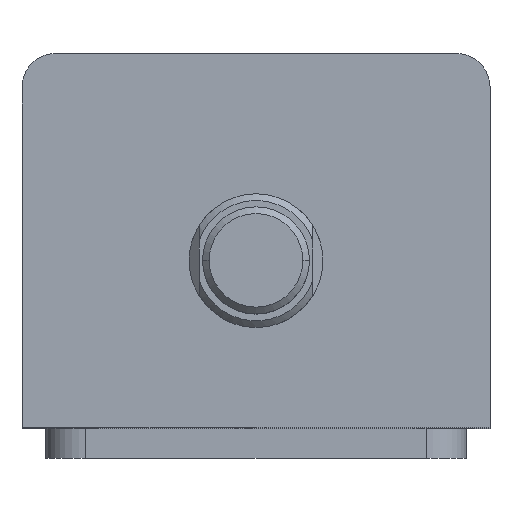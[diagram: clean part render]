
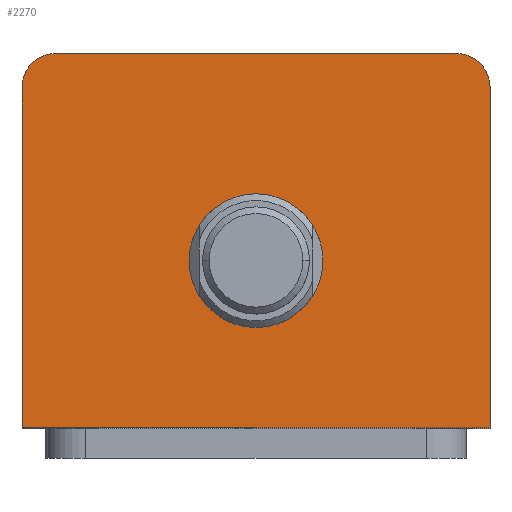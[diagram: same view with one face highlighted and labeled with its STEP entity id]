
A CAD part, top view. The second image highlights one B-rep face of the part: STEP entity #2270.
In plain terms, the highlighted planar face has unit normal (0, 0, 1).
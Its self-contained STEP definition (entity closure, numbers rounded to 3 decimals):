
#109 = EDGE_CURVE ( 'NONE', #2963, #3021, #3095, .T. ) ;
#111 = EDGE_CURVE ( 'NONE', #3020, #3009, #3098, .T. ) ;
#162 = EDGE_CURVE ( 'NONE', #2955, #3065, #2594, .T. ) ;
#172 = EDGE_CURVE ( 'NONE', #3009, #2955, #2615, .T. ) ;
#182 = EDGE_CURVE ( 'NONE', #3065, #2946, #2627, .T. ) ;
#184 = EDGE_CURVE ( 'NONE', #2946, #2968, #2626, .T. ) ;
#201 = EDGE_CURVE ( 'NONE', #3021, #2963, #2663, .T. ) ;
#238 = EDGE_CURVE ( 'NONE', #2968, #3020, #2726, .T. ) ;
#347 = CARTESIAN_POINT ( 'NONE',  ( -30., 28., 74. ) ) ;
#397 = CARTESIAN_POINT ( 'NONE',  ( 10., -3., 74. ) ) ;
#398 = CARTESIAN_POINT ( 'NONE',  ( 35., -28., 74. ) ) ;
#412 = CARTESIAN_POINT ( 'NONE',  ( 35., 23., 74. ) ) ;
#459 = CARTESIAN_POINT ( 'NONE',  ( -35., -28., 74. ) ) ;
#464 = CARTESIAN_POINT ( 'NONE',  ( -10., -3., 74. ) ) ;
#474 = CARTESIAN_POINT ( 'NONE',  ( 30., 28., 74. ) ) ;
#483 = CARTESIAN_POINT ( 'NONE',  ( -35., 23., 74. ) ) ;
#864 = ORIENTED_EDGE ( 'NONE', *, *, #238, .T. ) ;
#865 = ORIENTED_EDGE ( 'NONE', *, *, #184, .T. ) ;
#866 = ORIENTED_EDGE ( 'NONE', *, *, #182, .T. ) ;
#867 = ORIENTED_EDGE ( 'NONE', *, *, #162, .T. ) ;
#868 = ORIENTED_EDGE ( 'NONE', *, *, #172, .T. ) ;
#869 = ORIENTED_EDGE ( 'NONE', *, *, #111, .T. ) ;
#870 = ORIENTED_EDGE ( 'NONE', *, *, #109, .F. ) ;
#871 = ORIENTED_EDGE ( 'NONE', *, *, #201, .F. ) ;
#989 = EDGE_LOOP ( 'NONE', ( #871, #870 ) ) ;
#1108 = DIRECTION ( 'NONE',  ( 0., 1., 0. ) ) ;
#1109 = DIRECTION ( 'NONE',  ( 1., 0., 0. ) ) ;
#1111 = DIRECTION ( 'NONE',  ( 0., 0., 1. ) ) ;
#1113 = CARTESIAN_POINT ( 'NONE',  ( 0., -3., 74. ) ) ;
#1115 = CARTESIAN_POINT ( 'NONE',  ( 35., 28., 74. ) ) ;
#1157 = EDGE_LOOP ( 'NONE', ( #869, #868, #867, #866, #865, #864 ) ) ;
#1343 = DIRECTION ( 'NONE',  ( 1., 0., 0. ) ) ;
#1344 = DIRECTION ( 'NONE',  ( 0., 0., 1. ) ) ;
#1346 = PLANE ( 'NONE',  #1721 ) ;
#1349 = CARTESIAN_POINT ( 'NONE',  ( 0., 0., 74. ) ) ;
#1636 = DIRECTION ( 'NONE',  ( 1., 0., 0. ) ) ;
#1642 = CARTESIAN_POINT ( 'NONE',  ( -35., -28., 74. ) ) ;
#1721 = AXIS2_PLACEMENT_3D ( 'NONE', #1349, #1344, #1343 ) ;
#1861 = FACE_OUTER_BOUND ( 'NONE', #1157, .T. ) ;
#2154 = AXIS2_PLACEMENT_3D ( 'NONE', #2437, #2495, #2427 ) ;
#2158 = AXIS2_PLACEMENT_3D ( 'NONE', #2451, #2452, #2369 ) ;
#2165 = AXIS2_PLACEMENT_3D ( 'NONE', #2394, #2396, #2397 ) ;
#2206 = AXIS2_PLACEMENT_3D ( 'NONE', #1113, #1111, #1109 ) ;
#2270 = ADVANCED_FACE ( 'NONE', ( #2876, #1861 ), #1346, .T. ) ;
#2367 = CARTESIAN_POINT ( 'NONE',  ( -35., 28., 74. ) ) ;
#2369 = DIRECTION ( 'NONE',  ( 1., 0., 0. ) ) ;
#2394 = CARTESIAN_POINT ( 'NONE',  ( 30., 23., 74. ) ) ;
#2396 = DIRECTION ( 'NONE',  ( 0., 0., 1. ) ) ;
#2397 = DIRECTION ( 'NONE',  ( 1., 0., 0. ) ) ;
#2427 = DIRECTION ( 'NONE',  ( 1., 0., 0. ) ) ;
#2437 = CARTESIAN_POINT ( 'NONE',  ( 0., -3., 74. ) ) ;
#2449 = DIRECTION ( 'NONE',  ( 0., -1., 0. ) ) ;
#2451 = CARTESIAN_POINT ( 'NONE',  ( -30., 23., 74. ) ) ;
#2452 = DIRECTION ( 'NONE',  ( 0., 0., 1. ) ) ;
#2479 = CARTESIAN_POINT ( 'NONE',  ( -35., 28., 74. ) ) ;
#2495 = DIRECTION ( 'NONE',  ( 0., 0., 1. ) ) ;
#2527 = DIRECTION ( 'NONE',  ( -1., 0., 0. ) ) ;
#2594 = LINE ( 'NONE', #2479, #2600 ) ;
#2600 = VECTOR ( 'NONE', #2527, 1000. ) ;
#2615 = CIRCLE ( 'NONE', #2165, 5. ) ;
#2626 = LINE ( 'NONE', #2367, #2632 ) ;
#2627 = CIRCLE ( 'NONE', #2158, 5. ) ;
#2632 = VECTOR ( 'NONE', #2449, 1000. ) ;
#2663 = CIRCLE ( 'NONE', #2154, 10. ) ;
#2726 = LINE ( 'NONE', #1642, #2729 ) ;
#2729 = VECTOR ( 'NONE', #1636, 1000. ) ;
#2876 = FACE_BOUND ( 'NONE', #989, .T. ) ;
#2946 = VERTEX_POINT ( 'NONE', #483 ) ;
#2955 = VERTEX_POINT ( 'NONE', #474 ) ;
#2963 = VERTEX_POINT ( 'NONE', #464 ) ;
#2968 = VERTEX_POINT ( 'NONE', #459 ) ;
#3009 = VERTEX_POINT ( 'NONE', #412 ) ;
#3020 = VERTEX_POINT ( 'NONE', #398 ) ;
#3021 = VERTEX_POINT ( 'NONE', #397 ) ;
#3065 = VERTEX_POINT ( 'NONE', #347 ) ;
#3095 = CIRCLE ( 'NONE', #2206, 10. ) ;
#3098 = LINE ( 'NONE', #1115, #3102 ) ;
#3102 = VECTOR ( 'NONE', #1108, 1000. ) ;
